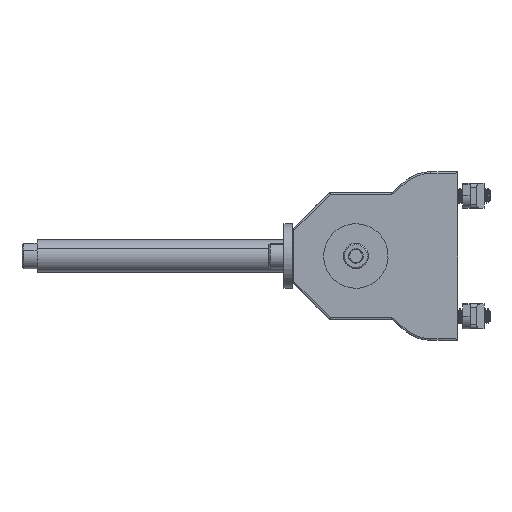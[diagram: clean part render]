
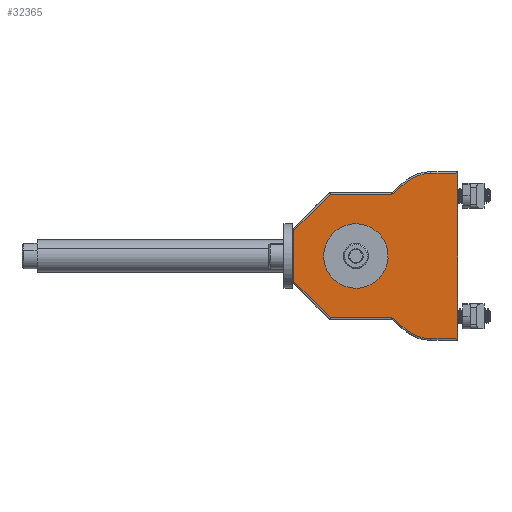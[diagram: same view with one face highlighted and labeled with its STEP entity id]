
A CAD part, front view. The second image highlights one B-rep face of the part: STEP entity #32365.
In plain terms, the highlighted planar face has unit normal (-0.009, -1, 0) as drawn and (0, -1, 0.009) by its records, which use the part's own axes.
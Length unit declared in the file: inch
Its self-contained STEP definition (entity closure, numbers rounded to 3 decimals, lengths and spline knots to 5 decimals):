
#26158=DIRECTION('',(-1.,0.,0.));
#26159=VECTOR('',#26158,0.79786);
#26160=CARTESIAN_POINT('',(0.39893,-0.35282,
0.96332));
#26161=LINE('',#26160,#26159);
#26216=DIRECTION('',(0.,0.009,1.));
#26217=VECTOR('',#26216,0.9481);
#26218=CARTESIAN_POINT('',(0.9631,-0.36601,-0.54891));
#26219=LINE('',#26218,#26217);
#26256=CARTESIAN_POINT('',(-0.68637,-0.3713,
-1.16928));
#26257=DIRECTION('',(0.,1.,-0.008));
#26258=DIRECTION('',(-1.,0.,0.009));
#26259=AXIS2_PLACEMENT_3D('',#26256,#26257,#26258);
#26261=DIRECTION('',(0.646,0.007,0.764));
#26262=VECTOR('',#26261,0.26274);
#26263=CARTESIAN_POINT('',(-1.14456,-0.36807,
-0.78183));
#26264=LINE('',#26263,#26262);
#26265=CARTESIAN_POINT('',(-0.97492,-0.36629,
-0.5812));
#26266=CARTESIAN_POINT('',(-0.97237,-0.36627,
-0.57816));
#26267=CARTESIAN_POINT('',(-0.96808,-0.36621,
-0.57171));
#26268=CARTESIAN_POINT('',(-0.96401,-0.36611,
-0.56057));
#26269=CARTESIAN_POINT('',(-0.96311,-0.36605,
-0.55288));
#26270=CARTESIAN_POINT('',(-0.9631,-0.36601,-0.54891));
#26272=DIRECTION('',(0.707,0.006,0.707));
#26273=VECTOR('',#26272,0.79787);
#26274=CARTESIAN_POINT('',(-0.9631,-0.35774,0.39915));
#26275=LINE('',#26274,#26273);
#26276=DIRECTION('',(0.707,-0.006,-0.707));
#26277=VECTOR('',#26276,0.79787);
#26278=CARTESIAN_POINT('',(0.39893,-0.35282,
0.96332));
#26279=LINE('',#26278,#26277);
#26280=CARTESIAN_POINT('',(0.9631,-0.36601,-0.54891));
#26281=CARTESIAN_POINT('',(0.96311,-0.36605,
-0.55288));
#26282=CARTESIAN_POINT('',(0.96401,-0.36611,
-0.56057));
#26283=CARTESIAN_POINT('',(0.96808,-0.36621,
-0.57171));
#26284=CARTESIAN_POINT('',(0.97237,-0.36627,
-0.57816));
#26285=CARTESIAN_POINT('',(0.97492,-0.36629,
-0.5812));
#26287=DIRECTION('',(0.646,-0.007,-0.764));
#26288=VECTOR('',#26287,0.26274);
#26289=CARTESIAN_POINT('',(0.97492,-0.36629,
-0.5812));
#26290=LINE('',#26289,#26288);
#26291=CARTESIAN_POINT('',(0.68637,-0.3713,
-1.16928));
#26292=DIRECTION('',(0.,1.,-0.008));
#26293=DIRECTION('',(0.764,0.005,0.646));
#26294=AXIS2_PLACEMENT_3D('',#26291,#26292,#26293);
#26296=DIRECTION('',(0.009,-0.009,-1.));
#26297=VECTOR('',#26296,0.41482);
#26298=CARTESIAN_POINT('',(1.28639,-0.37135,
-1.164));
#26299=LINE('',#26298,#26297);
#26300=DIRECTION('',(-1.,0.,0.));
#26301=VECTOR('',#26300,2.58);
#26302=CARTESIAN_POINT('',(1.29,-0.375,-1.57879));
#26303=LINE('',#26302,#26301);
#26304=DIRECTION('',(0.009,0.009,1.));
#26305=VECTOR('',#26304,0.41482);
#26306=CARTESIAN_POINT('',(-1.29,-0.375,-1.57879));
#26307=LINE('',#26306,#26305);
#26308=CARTESIAN_POINT('',(0.,-0.35704,
0.47874));
#26309=CARTESIAN_POINT('',(-0.06265,-0.35704,
0.47874));
#26310=CARTESIAN_POINT('',(-0.18788,-0.35726,
0.45383));
#26311=CARTESIAN_POINT('',(-0.34718,-0.35819,
0.3474));
#26312=CARTESIAN_POINT('',(-0.45361,-0.35958,
0.18811));
#26313=CARTESIAN_POINT('',(-0.49099,-0.36122,
0.00022));
#26314=CARTESIAN_POINT('',(-0.45361,-0.36286,
-0.18767));
#26315=CARTESIAN_POINT('',(-0.34718,-0.36425,
-0.34696));
#26316=CARTESIAN_POINT('',(-0.18788,-0.36518,
-0.4534));
#26317=CARTESIAN_POINT('',(-0.06265,-0.3654,
-0.47831));
#26318=CARTESIAN_POINT('',(0.,-0.3654,
-0.47831));
#26320=CARTESIAN_POINT('',(0.,-0.3654,
-0.47831));
#26321=CARTESIAN_POINT('',(0.06265,-0.3654,
-0.47831));
#26322=CARTESIAN_POINT('',(0.18788,-0.36518,
-0.4534));
#26323=CARTESIAN_POINT('',(0.34718,-0.36425,
-0.34696));
#26324=CARTESIAN_POINT('',(0.45361,-0.36286,
-0.18767));
#26325=CARTESIAN_POINT('',(0.49099,-0.36122,
0.00022));
#26326=CARTESIAN_POINT('',(0.45361,-0.35958,
0.18811));
#26327=CARTESIAN_POINT('',(0.34718,-0.35819,
0.3474));
#26328=CARTESIAN_POINT('',(0.18788,-0.35726,
0.45383));
#26329=CARTESIAN_POINT('',(0.06265,-0.35704,
0.47874));
#26330=CARTESIAN_POINT('',(0.,-0.35704,
0.47874));
#26347=CARTESIAN_POINT('',(-1.29,-0.375,-1.57879));
#26469=DIRECTION('',(0.,-0.009,-1.));
#26470=VECTOR('',#26469,0.9481);
#26471=CARTESIAN_POINT('',(-0.9631,-0.35774,0.39915));
#26472=LINE('',#26471,#26470);
#27075=VERTEX_POINT('',#26347);
#27076=CARTESIAN_POINT('',(1.29,-0.375,-1.57879));
#27077=VERTEX_POINT('',#27076);
#27409=CARTESIAN_POINT('',(-0.39893,-0.35282,
0.96332));
#27410=VERTEX_POINT('',#27409);
#27413=CARTESIAN_POINT('',(0.39893,-0.35282,
0.96332));
#27414=VERTEX_POINT('',#27413);
#27419=CARTESIAN_POINT('',(0.9631,-0.35774,0.39915));
#27420=VERTEX_POINT('',#27419);
#27425=CARTESIAN_POINT('',(0.9631,-0.36601,-0.54891));
#27426=VERTEX_POINT('',#27425);
#27428=VERTEX_POINT('',#26285);
#27429=CARTESIAN_POINT('',(-1.28639,-0.37129,
-1.164));
#27430=CARTESIAN_POINT('',(-1.14455,-0.36813,
-0.78183));
#27431=VERTEX_POINT('',#27429);
#27432=VERTEX_POINT('',#27430);
#27433=CARTESIAN_POINT('',(-0.97492,-0.36629,
-0.5812));
#27434=VERTEX_POINT('',#27433);
#27435=VERTEX_POINT('',#26270);
#27436=CARTESIAN_POINT('',(-0.9631,-0.35774,0.39915));
#27437=VERTEX_POINT('',#27436);
#27438=CARTESIAN_POINT('',(1.14456,-0.36807,
-0.78183));
#27439=VERTEX_POINT('',#27438);
#27440=CARTESIAN_POINT('',(1.28639,-0.37129,
-1.164));
#27441=VERTEX_POINT('',#27440);
#27442=VERTEX_POINT('',#26308);
#27443=VERTEX_POINT('',#26318);
#32329=CARTESIAN_POINT('',(0.,-0.375,-1.57879));
#32330=DIRECTION('',(0.,-1.,0.009));
#32331=DIRECTION('',(0.,-0.009,-1.));
#32332=AXIS2_PLACEMENT_3D('',#32329,#32330,#32331);
#32333=PLANE('',#32332);
#32335=ORIENTED_EDGE('',*,*,#32334,.T.);
#32337=ORIENTED_EDGE('',*,*,#32336,.T.);
#32339=ORIENTED_EDGE('',*,*,#32338,.T.);
#32341=ORIENTED_EDGE('',*,*,#32340,.F.);
#32343=ORIENTED_EDGE('',*,*,#32342,.T.);
#32344=ORIENTED_EDGE('',*,*,#32163,.F.);
#32345=ORIENTED_EDGE('',*,*,#32217,.T.);
#32346=ORIENTED_EDGE('',*,*,#32271,.F.);
#32347=ORIENTED_EDGE('',*,*,#32320,.T.);
#32349=ORIENTED_EDGE('',*,*,#32348,.T.);
#32351=ORIENTED_EDGE('',*,*,#32350,.T.);
#32353=ORIENTED_EDGE('',*,*,#32352,.T.);
#32354=ORIENTED_EDGE('',*,*,#27646,.T.);
#32356=ORIENTED_EDGE('',*,*,#32355,.T.);
#32357=EDGE_LOOP('',(#32335,#32337,#32339,#32341,#32343,#32344,#32345,#32346,
#32347,#32349,#32351,#32353,#32354,#32356));
#32358=FACE_OUTER_BOUND('',#32357,.F.);
#32360=ORIENTED_EDGE('',*,*,#32359,.T.);
#32362=ORIENTED_EDGE('',*,*,#32361,.T.);
#32363=EDGE_LOOP('',(#32360,#32362));
#32364=FACE_BOUND('',#32363,.F.);
#26260=CIRCLE('',#26259,0.60005);
#26271=B_SPLINE_CURVE_WITH_KNOTS('',3,(#26265,#26266,#26267,#26268,#26269,
#26270),.UNSPECIFIED.,.F.,.F.,(4,1,1,4),(0.,0.33333,
0.66667,1.),.UNSPECIFIED.);
#26286=B_SPLINE_CURVE_WITH_KNOTS('',3,(#26280,#26281,#26282,#26283,#26284,
#26285),.UNSPECIFIED.,.F.,.F.,(4,1,1,4),(0.,0.33333,
0.66667,1.),.UNSPECIFIED.);
#26295=CIRCLE('',#26294,0.60005);
#26319=B_SPLINE_CURVE_WITH_KNOTS('',3,(#26308,#26309,#26310,#26311,#26312,
#26313,#26314,#26315,#26316,#26317,#26318),.UNSPECIFIED.,.F.,.F.,(4,1,1,1,1,1,1,
1,4),(0.,0.125,0.25,0.375,0.5,
0.625,0.75,0.875,1.),.UNSPECIFIED.);
#26331=B_SPLINE_CURVE_WITH_KNOTS('',3,(#26320,#26321,#26322,#26323,#26324,
#26325,#26326,#26327,#26328,#26329,#26330),.UNSPECIFIED.,.F.,.F.,(4,1,1,1,1,1,1,
1,4),(0.,0.125,0.25,0.375,0.5,0.625,
0.75,0.875,1.),.UNSPECIFIED.);
#27646=EDGE_CURVE('',#27077,#27075,#26303,.T.);
#32163=EDGE_CURVE('',#27414,#27410,#26161,.T.);
#32217=EDGE_CURVE('',#27414,#27420,#26279,.T.);
#32271=EDGE_CURVE('',#27426,#27420,#26219,.T.);
#32320=EDGE_CURVE('',#27426,#27428,#26286,.T.);
#32334=EDGE_CURVE('',#27431,#27432,#26260,.T.);
#32336=EDGE_CURVE('',#27432,#27434,#26264,.T.);
#32338=EDGE_CURVE('',#27434,#27435,#26271,.T.);
#32340=EDGE_CURVE('',#27437,#27435,#26472,.T.);
#32342=EDGE_CURVE('',#27437,#27410,#26275,.T.);
#32348=EDGE_CURVE('',#27428,#27439,#26290,.T.);
#32350=EDGE_CURVE('',#27439,#27441,#26295,.T.);
#32352=EDGE_CURVE('',#27441,#27077,#26299,.T.);
#32355=EDGE_CURVE('',#27075,#27431,#26307,.T.);
#32359=EDGE_CURVE('',#27442,#27443,#26319,.T.);
#32361=EDGE_CURVE('',#27443,#27442,#26331,.T.);
#32365=ADVANCED_FACE('',(#32358,#32364),#32333,.T.);
